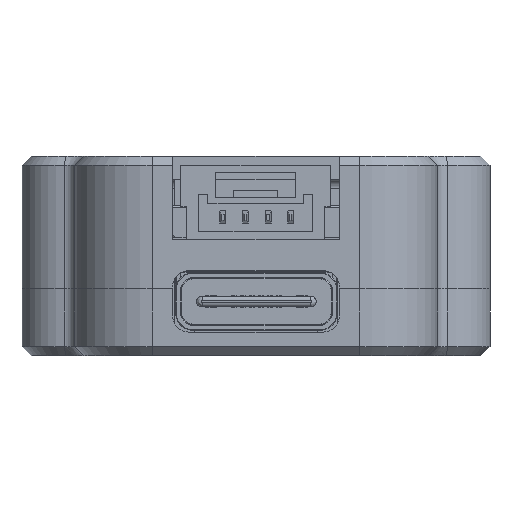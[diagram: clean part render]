
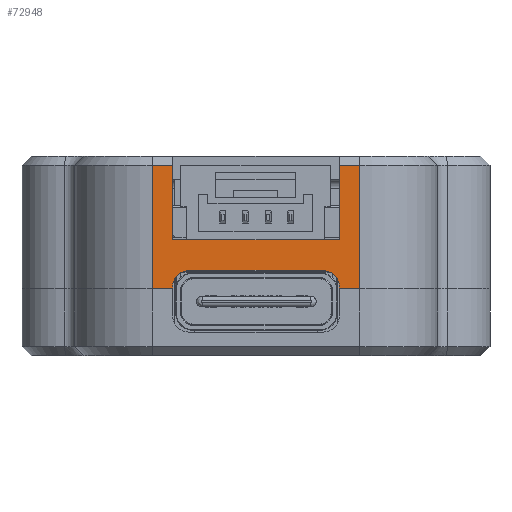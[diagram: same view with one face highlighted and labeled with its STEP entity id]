
A CAD part, front view. The second image highlights one B-rep face of the part: STEP entity #72948.
In plain terms, the highlighted planar face has unit normal (0, -1, 0).
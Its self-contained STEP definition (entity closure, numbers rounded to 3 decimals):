
#1211 = VERTEX_POINT ( 'NONE', #6099 ) ;
#1279 = CARTESIAN_POINT ( 'NONE',  ( -5.783, -21.639, 4.3 ) ) ;
#2385 = VECTOR ( 'NONE', #26605, 1000. ) ;
#6099 = CARTESIAN_POINT ( 'NONE',  ( -5.783, -21.639, -2.5 ) ) ;
#11240 = CARTESIAN_POINT ( 'NONE',  ( -4.662, -21.639, -2.5 ) ) ;
#11578 = AXIS2_PLACEMENT_3D ( 'NONE', #102655, #38613, #40775 ) ;
#12950 = CARTESIAN_POINT ( 'NONE',  ( -8.762, -21.639, -1.5 ) ) ;
#14970 = EDGE_CURVE ( 'NONE', #36981, #110800, #44561, .T. ) ;
#15216 = AXIS2_PLACEMENT_3D ( 'NONE', #76016, #96277, #113662 ) ;
#15352 = AXIS2_PLACEMENT_3D ( 'NONE', #100477, #21157, #93376 ) ;
#15465 = EDGE_CURVE ( 'NONE', #32518, #68726, #91100, .T. ) ;
#16551 = ORIENTED_EDGE ( 'NONE', *, *, #90924, .T. ) ;
#18009 = CARTESIAN_POINT ( 'NONE',  ( 4.538, -21.639, 4.5 ) ) ;
#18017 = ORIENTED_EDGE ( 'NONE', *, *, #77308, .T. ) ;
#18352 = VERTEX_POINT ( 'NONE', #23708 ) ;
#20763 = CARTESIAN_POINT ( 'NONE',  ( 5.658, -21.639, 4.3 ) ) ;
#21157 = DIRECTION ( 'NONE',  ( 0., 1., 0. ) ) ;
#21221 = CARTESIAN_POINT ( 'NONE',  ( 4.538, -21.639, 4.5 ) ) ;
#21676 = VECTOR ( 'NONE', #101387, 1000. ) ;
#22933 = LINE ( 'NONE', #41513, #79146 ) ;
#23708 = CARTESIAN_POINT ( 'NONE',  ( 4.538, -21.639, 0.2 ) ) ;
#24445 = CARTESIAN_POINT ( 'NONE',  ( -4.662, -21.639, 0.2 ) ) ;
#25956 = CARTESIAN_POINT ( 'NONE',  ( 3.638, -21.639, -1.5 ) ) ;
#26244 = EDGE_CURVE ( 'NONE', #18352, #62207, #36443, .T. ) ;
#26605 = DIRECTION ( 'NONE',  ( 1., 0., 0. ) ) ;
#28083 = EDGE_CURVE ( 'NONE', #80720, #36981, #65815, .T. ) ;
#28484 = EDGE_CURVE ( 'NONE', #68726, #45409, #76056, .T. ) ;
#29051 = EDGE_LOOP ( 'NONE', ( #16551, #98790, #90388, #113693, #52271, #67193, #45428, #65073, #51318, #65680, #107227, #53814, #32834, #18017 ) ) ;
#29826 = PLANE ( 'NONE',  #15352 ) ;
#32518 = VERTEX_POINT ( 'NONE', #93191 ) ;
#32615 = LINE ( 'NONE', #41368, #37987 ) ;
#32834 = ORIENTED_EDGE ( 'NONE', *, *, #106030, .T. ) ;
#34504 = DIRECTION ( 'NONE',  ( 1., 0., 0. ) ) ;
#36443 = LINE ( 'NONE', #37023, #86660 ) ;
#36981 = VERTEX_POINT ( 'NONE', #67494 ) ;
#37023 = CARTESIAN_POINT ( 'NONE',  ( -8.762, -21.639, 0.2 ) ) ;
#37987 = VECTOR ( 'NONE', #67978, 1000. ) ;
#38613 = DIRECTION ( 'NONE',  ( 0., 1., 0. ) ) ;
#38813 = VECTOR ( 'NONE', #63675, 1000. ) ;
#40775 = DIRECTION ( 'NONE',  ( -1., 0., 0. ) ) ;
#41368 = CARTESIAN_POINT ( 'NONE',  ( 5.658, -21.639, 4.5 ) ) ;
#41513 = CARTESIAN_POINT ( 'NONE',  ( -5.783, -21.639, 4.3 ) ) ;
#42090 = LINE ( 'NONE', #51340, #63517 ) ;
#44344 = VECTOR ( 'NONE', #78820, 1000. ) ;
#44561 = LINE ( 'NONE', #105890, #2385 ) ;
#45409 = VERTEX_POINT ( 'NONE', #25956 ) ;
#45428 = ORIENTED_EDGE ( 'NONE', *, *, #14970, .T. ) ;
#46143 = DIRECTION ( 'NONE',  ( 0., 0., -1. ) ) ;
#48312 = DIRECTION ( 'NONE',  ( 1., 0., 0. ) ) ;
#50941 = EDGE_CURVE ( 'NONE', #45409, #80720, #87487, .T. ) ;
#51318 = ORIENTED_EDGE ( 'NONE', *, *, #68205, .T. ) ;
#51340 = CARTESIAN_POINT ( 'NONE',  ( -5.783, -21.639, -2.5 ) ) ;
#52271 = ORIENTED_EDGE ( 'NONE', *, *, #50941, .T. ) ;
#52722 = EDGE_CURVE ( 'NONE', #87248, #32518, #103629, .T. ) ;
#53633 = VECTOR ( 'NONE', #48312, 1000. ) ;
#53814 = ORIENTED_EDGE ( 'NONE', *, *, #56138, .F. ) ;
#56138 = EDGE_CURVE ( 'NONE', #58497, #62207, #92149, .T. ) ;
#58032 = LINE ( 'NONE', #101986, #99286 ) ;
#58296 = DIRECTION ( 'NONE',  ( -1., 0., 0. ) ) ;
#58497 = VERTEX_POINT ( 'NONE', #88794 ) ;
#62207 = VERTEX_POINT ( 'NONE', #24445 ) ;
#63190 = LINE ( 'NONE', #18009, #44344 ) ;
#63517 = VECTOR ( 'NONE', #34504, 1000. ) ;
#63675 = DIRECTION ( 'NONE',  ( -1., 0., 0. ) ) ;
#63685 = VERTEX_POINT ( 'NONE', #20763 ) ;
#64223 = CARTESIAN_POINT ( 'NONE',  ( 4.538, -21.639, 4.3 ) ) ;
#64601 = VECTOR ( 'NONE', #46143, 1000. ) ;
#65073 = ORIENTED_EDGE ( 'NONE', *, *, #75882, .T. ) ;
#65521 = VERTEX_POINT ( 'NONE', #1279 ) ;
#65680 = ORIENTED_EDGE ( 'NONE', *, *, #79119, .T. ) ;
#65815 = LINE ( 'NONE', #21221, #64601 ) ;
#67193 = ORIENTED_EDGE ( 'NONE', *, *, #28083, .T. ) ;
#67494 = CARTESIAN_POINT ( 'NONE',  ( 4.538, -21.639, -2.5 ) ) ;
#67978 = DIRECTION ( 'NONE',  ( 0., 0., 1. ) ) ;
#68205 = EDGE_CURVE ( 'NONE', #63685, #89071, #107034, .T. ) ;
#68358 = CARTESIAN_POINT ( 'NONE',  ( -4.662, -21.639, 4.5 ) ) ;
#68726 = VERTEX_POINT ( 'NONE', #90538 ) ;
#68929 = DIRECTION ( 'NONE',  ( 0., 0., 1. ) ) ;
#72948 = ADVANCED_FACE ( 'NONE', ( #111299 ), #29826, .F. ) ;
#73293 = VECTOR ( 'NONE', #68929, 1000. ) ;
#75882 = EDGE_CURVE ( 'NONE', #110800, #63685, #32615, .T. ) ;
#76016 = CARTESIAN_POINT ( 'NONE',  ( -3.762, -21.639, -2.4 ) ) ;
#76056 = LINE ( 'NONE', #12950, #53633 ) ;
#77308 = EDGE_CURVE ( 'NONE', #65521, #1211, #58032, .T. ) ;
#78820 = DIRECTION ( 'NONE',  ( 0., 0., -1. ) ) ;
#79119 = EDGE_CURVE ( 'NONE', #89071, #18352, #63190, .T. ) ;
#79146 = VECTOR ( 'NONE', #58296, 1000. ) ;
#80356 = CARTESIAN_POINT ( 'NONE',  ( 4.538, -21.639, 4.3 ) ) ;
#80720 = VERTEX_POINT ( 'NONE', #95401 ) ;
#82132 = DIRECTION ( 'NONE',  ( -1., 0., 0. ) ) ;
#85472 = CARTESIAN_POINT ( 'NONE',  ( 5.658, -21.639, -2.5 ) ) ;
#86660 = VECTOR ( 'NONE', #82132, 1000. ) ;
#87248 = VERTEX_POINT ( 'NONE', #11240 ) ;
#87487 = CIRCLE ( 'NONE', #11578, 0.9 ) ;
#88794 = CARTESIAN_POINT ( 'NONE',  ( -4.662, -21.639, 4.3 ) ) ;
#89071 = VERTEX_POINT ( 'NONE', #80356 ) ;
#90388 = ORIENTED_EDGE ( 'NONE', *, *, #15465, .T. ) ;
#90538 = CARTESIAN_POINT ( 'NONE',  ( -3.762, -21.639, -1.5 ) ) ;
#90924 = EDGE_CURVE ( 'NONE', #1211, #87248, #42090, .T. ) ;
#91100 = CIRCLE ( 'NONE', #15216, 0.9 ) ;
#92149 = LINE ( 'NONE', #101958, #21676 ) ;
#93191 = CARTESIAN_POINT ( 'NONE',  ( -4.662, -21.639, -2.4 ) ) ;
#93376 = DIRECTION ( 'NONE',  ( 0., 0., 1. ) ) ;
#95401 = CARTESIAN_POINT ( 'NONE',  ( 4.538, -21.639, -2.4 ) ) ;
#96277 = DIRECTION ( 'NONE',  ( 0., 1., 0. ) ) ;
#98790 = ORIENTED_EDGE ( 'NONE', *, *, #52722, .T. ) ;
#99286 = VECTOR ( 'NONE', #104269, 1000. ) ;
#100477 = CARTESIAN_POINT ( 'NONE',  ( -8.762, -21.639, 4.5 ) ) ;
#101387 = DIRECTION ( 'NONE',  ( 0., 0., -1. ) ) ;
#101958 = CARTESIAN_POINT ( 'NONE',  ( -4.662, -21.639, 9.5 ) ) ;
#101986 = CARTESIAN_POINT ( 'NONE',  ( -5.783, -21.639, 4.5 ) ) ;
#102655 = CARTESIAN_POINT ( 'NONE',  ( 3.638, -21.639, -2.4 ) ) ;
#103629 = LINE ( 'NONE', #68358, #73293 ) ;
#104269 = DIRECTION ( 'NONE',  ( 0., 0., -1. ) ) ;
#105890 = CARTESIAN_POINT ( 'NONE',  ( -5.783, -21.639, -2.5 ) ) ;
#106030 = EDGE_CURVE ( 'NONE', #58497, #65521, #22933, .T. ) ;
#107034 = LINE ( 'NONE', #64223, #38813 ) ;
#107227 = ORIENTED_EDGE ( 'NONE', *, *, #26244, .T. ) ;
#110800 = VERTEX_POINT ( 'NONE', #85472 ) ;
#111299 = FACE_OUTER_BOUND ( 'NONE', #29051, .T. ) ;
#113662 = DIRECTION ( 'NONE',  ( -1., 0., 0. ) ) ;
#113693 = ORIENTED_EDGE ( 'NONE', *, *, #28484, .T. ) ;
